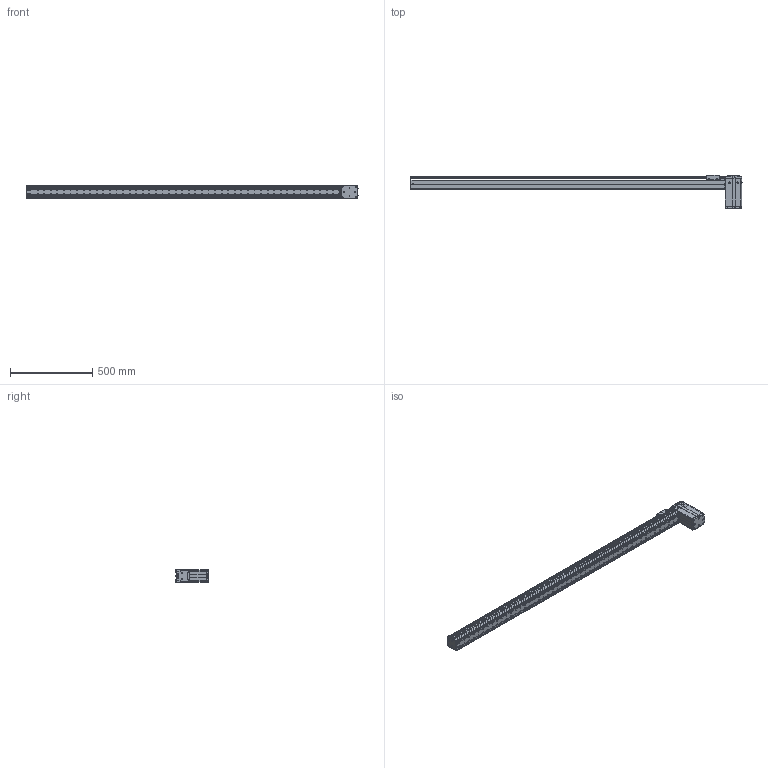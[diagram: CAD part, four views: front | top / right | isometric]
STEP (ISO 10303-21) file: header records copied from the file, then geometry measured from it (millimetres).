
FILE_DESCRIPTION((''),'2;1');
FILE_NAME('BE10_-BU-S_N-H5_IGS_PRT','2017-06-18T',(' '),(''),'PRO/ENGINEER BY PARAMETRIC TECHNOLOGY CORPORATION, 2015030','PRO/ENGINEER BY PARAMETRIC TECHNOLOGY CORPORATION, 2015030','');
FILE_SCHEMA(('CONFIG_CONTROL_DESIGN'));
Products named in the file (1): BE10_-BU-S_N-H5_IGS_PRT
Bounding box: 2020.8 x 202.72 x 78 mm (x, y, z)
Volume: 2589432.3 mm3; surface area: 1850765.6 mm2
Topology: 5 solids, 173 shells, 2292 faces, 6295 edges, 4192 vertices
Faces by surface type: cylinder 1067, plane 1066, cone 103, sphere 28, torus 25, bspline 3
Entity records: 75307 total; most frequent: CARTESIAN_POINT 15605, DIRECTION 12699, ORIENTED_EDGE 11834, EDGE_CURVE 6239, AXIS2_PLACEMENT_3D 4641, VERTEX_POINT 4191, VECTOR 3417, LINE 3417
